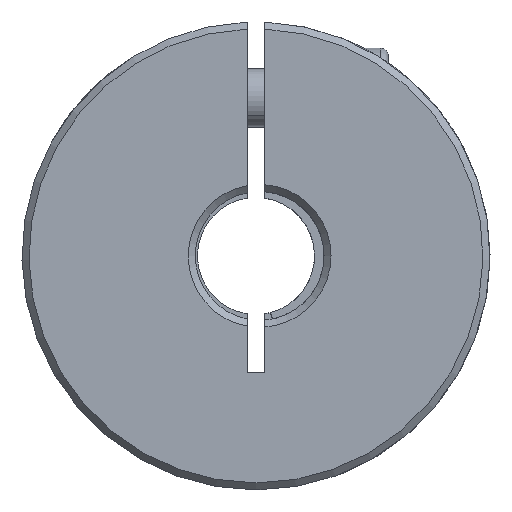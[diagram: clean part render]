
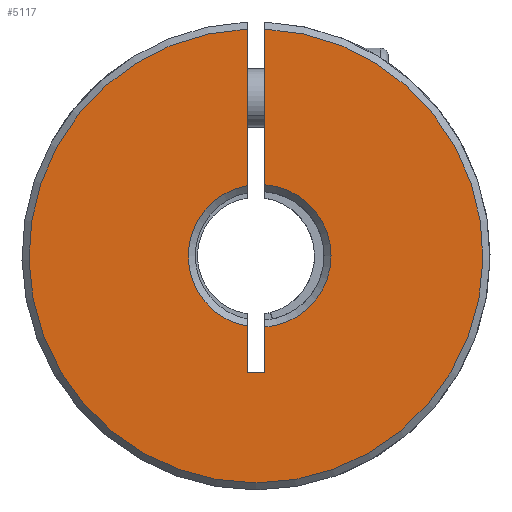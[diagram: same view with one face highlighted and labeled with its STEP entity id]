
A CAD part, front view. The second image highlights one B-rep face of the part: STEP entity #5117.
In plain terms, the highlighted planar face has unit normal (0, -1, 0).
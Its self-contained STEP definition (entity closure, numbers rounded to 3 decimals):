
#33 = DIRECTION ( 'NONE',  ( 0., 1., 0. ) ) ;
#88 = VERTEX_POINT ( 'NONE', #3303 ) ;
#124 = CARTESIAN_POINT ( 'NONE',  ( -0.75, -30., 6.007 ) ) ;
#154 = CARTESIAN_POINT ( 'NONE',  ( -0.75, -30., 19.385 ) ) ;
#202 = ORIENTED_EDGE ( 'NONE', *, *, #1379, .T. ) ;
#207 = VECTOR ( 'NONE', #597, 1000. ) ;
#240 = VECTOR ( 'NONE', #1415, 1000. ) ;
#428 = VECTOR ( 'NONE', #4521, 1000. ) ;
#499 = EDGE_CURVE ( 'NONE', #5675, #3907, #864, .T. ) ;
#560 = EDGE_CURVE ( 'NONE', #1417, #3045, #4800, .T. ) ;
#597 = DIRECTION ( 'NONE',  ( 0., 0., -1. ) ) ;
#639 = DIRECTION ( 'NONE',  ( 0., -1., 0. ) ) ;
#864 = LINE ( 'NONE', #2173, #428 ) ;
#1006 = AXIS2_PLACEMENT_3D ( 'NONE', #5150, #4738, #3245 ) ;
#1029 = CARTESIAN_POINT ( 'NONE',  ( -0.75, -30., -10. ) ) ;
#1088 = DIRECTION ( 'NONE',  ( 0., 0., 1. ) ) ;
#1113 = EDGE_LOOP ( 'NONE', ( #1323, #3458, #1776, #2717, #2486, #2168, #3387, #202 ) ) ;
#1117 = DIRECTION ( 'NONE',  ( 0., 1., 0. ) ) ;
#1119 = CARTESIAN_POINT ( 'NONE',  ( 0.314, -30., 0. ) ) ;
#1184 = FACE_OUTER_BOUND ( 'NONE', #1113, .T. ) ;
#1291 = CARTESIAN_POINT ( 'NONE',  ( 0.75, -30., -10. ) ) ;
#1323 = ORIENTED_EDGE ( 'NONE', *, *, #560, .T. ) ;
#1379 = EDGE_CURVE ( 'NONE', #2320, #1417, #1990, .T. ) ;
#1415 = DIRECTION ( 'NONE',  ( 0., 0., 1. ) ) ;
#1417 = VERTEX_POINT ( 'NONE', #5484 ) ;
#1422 = AXIS2_PLACEMENT_3D ( 'NONE', #1119, #33, #3797 ) ;
#1570 = CARTESIAN_POINT ( 'NONE',  ( 0., -30., 0. ) ) ;
#1594 = CARTESIAN_POINT ( 'NONE',  ( 0.75, -30., 6.084 ) ) ;
#1776 = ORIENTED_EDGE ( 'NONE', *, *, #4874, .T. ) ;
#1831 = DIRECTION ( 'NONE',  ( 0., 0., -1. ) ) ;
#1832 = VECTOR ( 'NONE', #4692, 1000. ) ;
#1990 = CIRCLE ( 'NONE', #2565, 19.4 ) ;
#2168 = ORIENTED_EDGE ( 'NONE', *, *, #4983, .T. ) ;
#2173 = CARTESIAN_POINT ( 'NONE',  ( -0.75, -30., -10. ) ) ;
#2320 = VERTEX_POINT ( 'NONE', #154 ) ;
#2343 = CARTESIAN_POINT ( 'NONE',  ( 0.75, -30., -10. ) ) ;
#2473 = PLANE ( 'NONE',  #3529 ) ;
#2486 = ORIENTED_EDGE ( 'NONE', *, *, #3839, .T. ) ;
#2565 = AXIS2_PLACEMENT_3D ( 'NONE', #4809, #639, #4206 ) ;
#2692 = VERTEX_POINT ( 'NONE', #2846 ) ;
#2717 = ORIENTED_EDGE ( 'NONE', *, *, #499, .T. ) ;
#2820 = CARTESIAN_POINT ( 'NONE',  ( -0.75, -30., -10. ) ) ;
#2846 = CARTESIAN_POINT ( 'NONE',  ( 0.75, -30., -6.084 ) ) ;
#3045 = VERTEX_POINT ( 'NONE', #1594 ) ;
#3155 = CIRCLE ( 'NONE', #1422, 6.1 ) ;
#3174 = VERTEX_POINT ( 'NONE', #124 ) ;
#3196 = CARTESIAN_POINT ( 'NONE',  ( -0.75, -30., -10. ) ) ;
#3245 = DIRECTION ( 'NONE',  ( 0., 0., 1. ) ) ;
#3303 = CARTESIAN_POINT ( 'NONE',  ( -0.75, -30., -6.007 ) ) ;
#3387 = ORIENTED_EDGE ( 'NONE', *, *, #4641, .T. ) ;
#3458 = ORIENTED_EDGE ( 'NONE', *, *, #4736, .T. ) ;
#3529 = AXIS2_PLACEMENT_3D ( 'NONE', #1570, #1117, #1088 ) ;
#3797 = DIRECTION ( 'NONE',  ( 0., 0., 1. ) ) ;
#3826 = VECTOR ( 'NONE', #1831, 1000. ) ;
#3839 = EDGE_CURVE ( 'NONE', #3907, #88, #5626, .T. ) ;
#3907 = VERTEX_POINT ( 'NONE', #1029 ) ;
#4206 = DIRECTION ( 'NONE',  ( 0., 0., 1. ) ) ;
#4521 = DIRECTION ( 'NONE',  ( -1., 0., 0. ) ) ;
#4641 = EDGE_CURVE ( 'NONE', #3174, #2320, #5588, .T. ) ;
#4692 = DIRECTION ( 'NONE',  ( 0., 0., 1. ) ) ;
#4701 = CIRCLE ( 'NONE', #1006, 6.1 ) ;
#4736 = EDGE_CURVE ( 'NONE', #3045, #2692, #3155, .T. ) ;
#4738 = DIRECTION ( 'NONE',  ( 0., 1., 0. ) ) ;
#4800 = LINE ( 'NONE', #5751, #207 ) ;
#4809 = CARTESIAN_POINT ( 'NONE',  ( 0., -30., 0. ) ) ;
#4874 = EDGE_CURVE ( 'NONE', #2692, #5675, #5459, .T. ) ;
#4983 = EDGE_CURVE ( 'NONE', #88, #3174, #4701, .T. ) ;
#5117 = ADVANCED_FACE ( 'NONE', ( #1184 ), #2473, .F. ) ;
#5150 = CARTESIAN_POINT ( 'NONE',  ( 0.314, -30., 0. ) ) ;
#5459 = LINE ( 'NONE', #1291, #3826 ) ;
#5484 = CARTESIAN_POINT ( 'NONE',  ( 0.75, -30., 19.385 ) ) ;
#5588 = LINE ( 'NONE', #3196, #240 ) ;
#5626 = LINE ( 'NONE', #2820, #1832 ) ;
#5675 = VERTEX_POINT ( 'NONE', #2343 ) ;
#5751 = CARTESIAN_POINT ( 'NONE',  ( 0.75, -30., -10. ) ) ;
